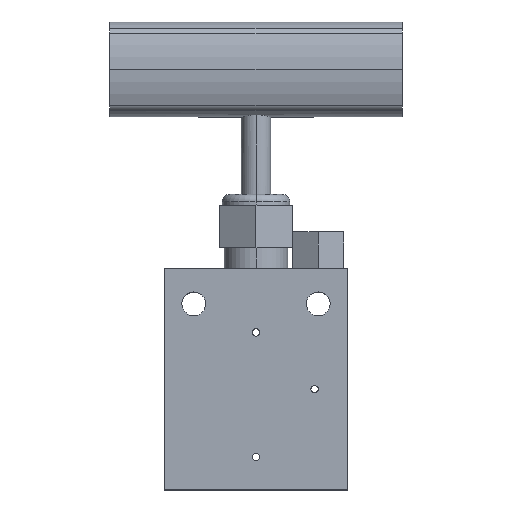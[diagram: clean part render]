
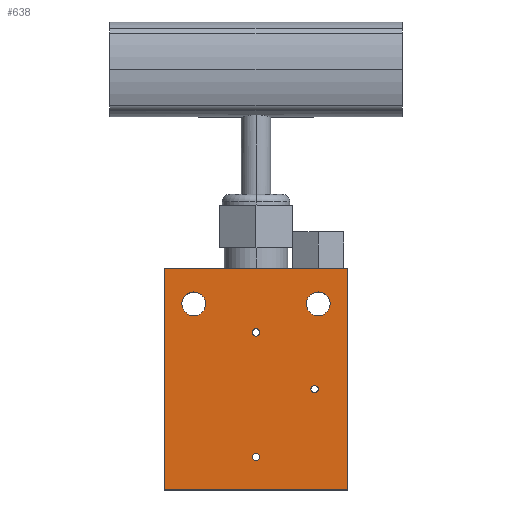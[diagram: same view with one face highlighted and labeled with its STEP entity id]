
A CAD part, top view. The second image highlights one B-rep face of the part: STEP entity #638.
In plain terms, the highlighted planar face has unit normal (0, 0, 1).
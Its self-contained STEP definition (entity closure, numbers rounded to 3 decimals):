
#27 = DIRECTION ( 'NONE',  ( 1., 0., 0. ) ) ;
#55 = CARTESIAN_POINT ( 'NONE',  ( -25., 30.25, 12.5 ) ) ;
#64 = VERTEX_POINT ( 'NONE', #1481 ) ;
#78 = ORIENTED_EDGE ( 'NONE', *, *, #2998, .F. ) ;
#113 = EDGE_CURVE ( 'NONE', #629, #446, #2234, .T. ) ;
#120 = DIRECTION ( 'NONE',  ( 0., 0., 1. ) ) ;
#134 = DIRECTION ( 'NONE',  ( 0., 0., 1. ) ) ;
#142 = ORIENTED_EDGE ( 'NONE', *, *, #355, .T. ) ;
#172 = DIRECTION ( 'NONE',  ( 1., 0., 0. ) ) ;
#191 = CARTESIAN_POINT ( 'NONE',  ( 15., -2.75, 12.5 ) ) ;
#208 = CIRCLE ( 'NONE', #412, 1. ) ;
#217 = VERTEX_POINT ( 'NONE', #2965 ) ;
#234 = DIRECTION ( 'NONE',  ( 0., 0., 1. ) ) ;
#238 = CARTESIAN_POINT ( 'NONE',  ( 16., -2.75, 12.5 ) ) ;
#257 = EDGE_CURVE ( 'NONE', #2555, #535, #733, .T. ) ;
#279 = ORIENTED_EDGE ( 'NONE', *, *, #2995, .F. ) ;
#289 = FACE_BOUND ( 'NONE', #1074, .T. ) ;
#293 = VECTOR ( 'NONE', #2186, 1000. ) ;
#295 = DIRECTION ( 'NONE',  ( 1., 0., 0. ) ) ;
#342 = CARTESIAN_POINT ( 'NONE',  ( 25., 30.25, 12.5 ) ) ;
#355 = EDGE_CURVE ( 'NONE', #1839, #2303, #3061, .T. ) ;
#392 = CARTESIAN_POINT ( 'NONE',  ( 20.25, 20.55, 12.5 ) ) ;
#405 = AXIS2_PLACEMENT_3D ( 'NONE', #1661, #945, #27 ) ;
#412 = AXIS2_PLACEMENT_3D ( 'NONE', #1597, #1856, #941 ) ;
#446 = VERTEX_POINT ( 'NONE', #191 ) ;
#483 = CARTESIAN_POINT ( 'NONE',  ( -25., 30.25, 12.5 ) ) ;
#524 = DIRECTION ( 'NONE',  ( 0., 0., 1. ) ) ;
#535 = VERTEX_POINT ( 'NONE', #731 ) ;
#549 = CIRCLE ( 'NONE', #902, 1. ) ;
#550 = VERTEX_POINT ( 'NONE', #1448 ) ;
#588 = CARTESIAN_POINT ( 'NONE',  ( -1., -21.25, 12.5 ) ) ;
#594 = VECTOR ( 'NONE', #2326, 1000. ) ;
#629 = VERTEX_POINT ( 'NONE', #1310 ) ;
#638 = ADVANCED_FACE ( 'NONE', ( #289, #1328, #826, #2684, #1790, #794 ), #1257, .T. ) ;
#684 = ORIENTED_EDGE ( 'NONE', *, *, #996, .T. ) ;
#701 = AXIS2_PLACEMENT_3D ( 'NONE', #786, #524, #1283 ) ;
#731 = CARTESIAN_POINT ( 'NONE',  ( 1., -21.25, 12.5 ) ) ;
#733 = CIRCLE ( 'NONE', #1037, 1. ) ;
#744 = CIRCLE ( 'NONE', #405, 1. ) ;
#767 = DIRECTION ( 'NONE',  ( 1., 0., 0. ) ) ;
#772 = CARTESIAN_POINT ( 'NONE',  ( 0., 12.75, 12.5 ) ) ;
#786 = CARTESIAN_POINT ( 'NONE',  ( -17., 20.55, 12.5 ) ) ;
#794 = FACE_OUTER_BOUND ( 'NONE', #2974, .T. ) ;
#815 = CARTESIAN_POINT ( 'NONE',  ( 0., -21.25, 12.5 ) ) ;
#826 = FACE_BOUND ( 'NONE', #2543, .T. ) ;
#835 = VECTOR ( 'NONE', #2813, 1000. ) ;
#895 = DIRECTION ( 'NONE',  ( 1., 0., 0. ) ) ;
#902 = AXIS2_PLACEMENT_3D ( 'NONE', #2119, #234, #895 ) ;
#941 = DIRECTION ( 'NONE',  ( 1., 0., 0. ) ) ;
#945 = DIRECTION ( 'NONE',  ( 0., 0., 1. ) ) ;
#996 = EDGE_CURVE ( 'NONE', #2851, #217, #2056, .T. ) ;
#1013 = CARTESIAN_POINT ( 'NONE',  ( 1., 12.75, 12.5 ) ) ;
#1037 = AXIS2_PLACEMENT_3D ( 'NONE', #815, #2713, #295 ) ;
#1074 = EDGE_LOOP ( 'NONE', ( #1261, #78 ) ) ;
#1084 = DIRECTION ( 'NONE',  ( 0., 0., 1. ) ) ;
#1106 = CARTESIAN_POINT ( 'NONE',  ( 13.75, 20.55, 12.5 ) ) ;
#1164 = CIRCLE ( 'NONE', #2219, 3.25 ) ;
#1170 = EDGE_CURVE ( 'NONE', #2719, #2358, #2310, .T. ) ;
#1197 = AXIS2_PLACEMENT_3D ( 'NONE', #1603, #120, #2538 ) ;
#1219 = DIRECTION ( 'NONE',  ( 0., 0., 1. ) ) ;
#1257 = PLANE ( 'NONE',  #2079 ) ;
#1261 = ORIENTED_EDGE ( 'NONE', *, *, #1942, .F. ) ;
#1283 = DIRECTION ( 'NONE',  ( 1., 0., 0. ) ) ;
#1310 = CARTESIAN_POINT ( 'NONE',  ( 17., -2.75, 12.5 ) ) ;
#1328 = FACE_BOUND ( 'NONE', #2244, .T. ) ;
#1359 = CARTESIAN_POINT ( 'NONE',  ( -25., 30.25, 12.5 ) ) ;
#1440 = DIRECTION ( 'NONE',  ( 1., 0., 0. ) ) ;
#1448 = CARTESIAN_POINT ( 'NONE',  ( -1., 12.75, 12.5 ) ) ;
#1455 = CIRCLE ( 'NONE', #2068, 1. ) ;
#1477 = CARTESIAN_POINT ( 'NONE',  ( -20.25, 20.55, 12.5 ) ) ;
#1481 = CARTESIAN_POINT ( 'NONE',  ( -13.75, 20.55, 12.5 ) ) ;
#1597 = CARTESIAN_POINT ( 'NONE',  ( 0., 12.75, 12.5 ) ) ;
#1603 = CARTESIAN_POINT ( 'NONE',  ( 17., 20.55, 12.5 ) ) ;
#1653 = ORIENTED_EDGE ( 'NONE', *, *, #113, .F. ) ;
#1661 = CARTESIAN_POINT ( 'NONE',  ( 0., -21.25, 12.5 ) ) ;
#1668 = CARTESIAN_POINT ( 'NONE',  ( -25., -30.25, 12.5 ) ) ;
#1675 = DIRECTION ( 'NONE',  ( 0., 0., 1. ) ) ;
#1697 = EDGE_CURVE ( 'NONE', #217, #1839, #2599, .T. ) ;
#1790 = FACE_BOUND ( 'NONE', #2770, .T. ) ;
#1819 = EDGE_CURVE ( 'NONE', #2358, #2719, #2808, .T. ) ;
#1839 = VERTEX_POINT ( 'NONE', #2871 ) ;
#1840 = ORIENTED_EDGE ( 'NONE', *, *, #1697, .T. ) ;
#1854 = EDGE_CURVE ( 'NONE', #2303, #2851, #2651, .T. ) ;
#1856 = DIRECTION ( 'NONE',  ( 0., 0., 1. ) ) ;
#1863 = CARTESIAN_POINT ( 'NONE',  ( 25., 30.25, 12.5 ) ) ;
#1925 = AXIS2_PLACEMENT_3D ( 'NONE', #238, #1675, #767 ) ;
#1942 = EDGE_CURVE ( 'NONE', #2833, #550, #1455, .T. ) ;
#1976 = ORIENTED_EDGE ( 'NONE', *, *, #2001, .F. ) ;
#1990 = EDGE_CURVE ( 'NONE', #535, #2555, #744, .T. ) ;
#2001 = EDGE_CURVE ( 'NONE', #64, #2044, #2659, .T. ) ;
#2044 = VERTEX_POINT ( 'NONE', #1477 ) ;
#2056 = LINE ( 'NONE', #1359, #594 ) ;
#2068 = AXIS2_PLACEMENT_3D ( 'NONE', #772, #2803, #2596 ) ;
#2079 = AXIS2_PLACEMENT_3D ( 'NONE', #2743, #1084, #2479 ) ;
#2119 = CARTESIAN_POINT ( 'NONE',  ( 16., -2.75, 12.5 ) ) ;
#2162 = VECTOR ( 'NONE', #172, 1000. ) ;
#2186 = DIRECTION ( 'NONE',  ( -1., 0., 0. ) ) ;
#2199 = CARTESIAN_POINT ( 'NONE',  ( 17., 20.55, 12.5 ) ) ;
#2219 = AXIS2_PLACEMENT_3D ( 'NONE', #2298, #134, #1440 ) ;
#2234 = CIRCLE ( 'NONE', #1925, 1. ) ;
#2244 = EDGE_LOOP ( 'NONE', ( #2736, #2335 ) ) ;
#2298 = CARTESIAN_POINT ( 'NONE',  ( -17., 20.55, 12.5 ) ) ;
#2303 = VERTEX_POINT ( 'NONE', #342 ) ;
#2310 = CIRCLE ( 'NONE', #1197, 3.25 ) ;
#2326 = DIRECTION ( 'NONE',  ( 0., -1., 0. ) ) ;
#2335 = ORIENTED_EDGE ( 'NONE', *, *, #257, .F. ) ;
#2358 = VERTEX_POINT ( 'NONE', #1106 ) ;
#2416 = EDGE_LOOP ( 'NONE', ( #1976, #279 ) ) ;
#2417 = DIRECTION ( 'NONE',  ( -1., 0., 0. ) ) ;
#2439 = EDGE_CURVE ( 'NONE', #446, #629, #549, .T. ) ;
#2479 = DIRECTION ( 'NONE',  ( 1., 0., 0. ) ) ;
#2538 = DIRECTION ( 'NONE',  ( -1., 0., 0. ) ) ;
#2543 = EDGE_LOOP ( 'NONE', ( #1653, #2880 ) ) ;
#2555 = VERTEX_POINT ( 'NONE', #588 ) ;
#2596 = DIRECTION ( 'NONE',  ( 1., 0., 0. ) ) ;
#2599 = LINE ( 'NONE', #1668, #2162 ) ;
#2620 = ORIENTED_EDGE ( 'NONE', *, *, #1170, .F. ) ;
#2651 = LINE ( 'NONE', #483, #293 ) ;
#2659 = CIRCLE ( 'NONE', #701, 3.25 ) ;
#2684 = FACE_BOUND ( 'NONE', #2416, .T. ) ;
#2713 = DIRECTION ( 'NONE',  ( 0., 0., 1. ) ) ;
#2719 = VERTEX_POINT ( 'NONE', #392 ) ;
#2736 = ORIENTED_EDGE ( 'NONE', *, *, #1990, .F. ) ;
#2743 = CARTESIAN_POINT ( 'NONE',  ( 0., 0., 12.5 ) ) ;
#2748 = ORIENTED_EDGE ( 'NONE', *, *, #1819, .F. ) ;
#2770 = EDGE_LOOP ( 'NONE', ( #2620, #2748 ) ) ;
#2780 = ORIENTED_EDGE ( 'NONE', *, *, #1854, .T. ) ;
#2803 = DIRECTION ( 'NONE',  ( 0., 0., 1. ) ) ;
#2808 = CIRCLE ( 'NONE', #3107, 3.25 ) ;
#2813 = DIRECTION ( 'NONE',  ( 0., 1., 0. ) ) ;
#2833 = VERTEX_POINT ( 'NONE', #1013 ) ;
#2851 = VERTEX_POINT ( 'NONE', #55 ) ;
#2871 = CARTESIAN_POINT ( 'NONE',  ( 25., -30.25, 12.5 ) ) ;
#2880 = ORIENTED_EDGE ( 'NONE', *, *, #2439, .F. ) ;
#2965 = CARTESIAN_POINT ( 'NONE',  ( -25., -30.25, 12.5 ) ) ;
#2974 = EDGE_LOOP ( 'NONE', ( #684, #1840, #142, #2780 ) ) ;
#2995 = EDGE_CURVE ( 'NONE', #2044, #64, #1164, .T. ) ;
#2998 = EDGE_CURVE ( 'NONE', #550, #2833, #208, .T. ) ;
#3061 = LINE ( 'NONE', #1863, #835 ) ;
#3107 = AXIS2_PLACEMENT_3D ( 'NONE', #2199, #1219, #2417 ) ;
